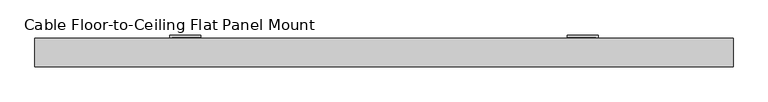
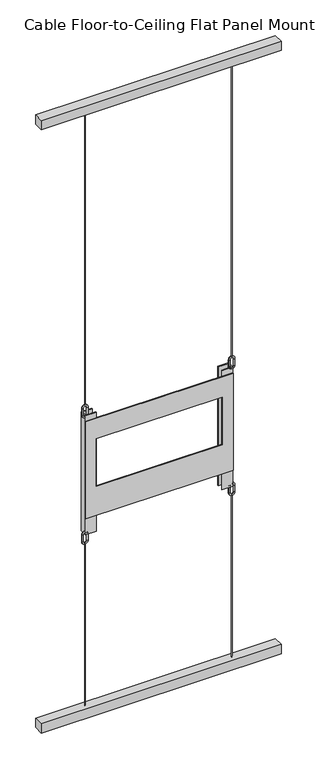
"""IFC4 building model written with IfcOpenShell, lengths in millimetres: proxy geometry, Flat_Panel_Mount-Chief-Cable_Floor_to_Ceiling : Cable Floor-to-Ceiling Flat Panel Mount."""

from ifc_helpers import new_model, si_unit, point, frame, frame_2d, origin, origin_with_axes, place, context, project, spatial, polyline, circle_curve, ellipse_curve, trimmed, segment, composite_curve, outline, extrude, source, transform, mapped, element, save
from ifc_brep_helpers import cylinder_surface, revolved_surface, advanced_brep


def cable_floor_to_ceiling_flat_panel_mount_ade06837(model_context):
    return source(origin(), model_context, "Body", "SolidModel", [
        advanced_brep(
        [(-324.485, 8.255, 779.2513154), (-297.815, 8.255, 779.2513154), (-304.165, 8.255, 779.2513154), (-318.135, 8.255, 779.2513154), (-318.135, 8.255, 809.7313154), (-324.485, 8.255, 809.7313154), (-297.815, 8.255, 809.7313154), (-304.165, 8.255, 809.7313154)],
        [
            (0, 1, circle_curve(frame((-311.15, 8.255, 779.2513154), z_axis=(0.0, -1.0, 0.0), x_axis=(1.0, 0.0, 0.0)), 13.335)),
            (1, 2, circle_curve(frame((-300.99, 8.255, 779.2513154), z_axis=(0.0, 0.0, -1.0), x_axis=(1.0, 0.0, 0.0)), 3.175)),
            (2, 3, circle_curve(frame((-311.15, 8.255, 779.2513154), z_axis=(0.0, 1.0, 0.0), x_axis=(1.0, 0.0, 0.0)), 6.985)),
            (3, 0, circle_curve(frame((-321.31, 8.255, 779.2513154), z_axis=(0.0, 0.0, -1.0), x_axis=(-1.0, 0.0, 0.0)), 3.175)),
            (2, 1, circle_curve(frame((-300.99, 8.255, 779.2513154), z_axis=(0.0, 0.0, -1.0), x_axis=(1.0, 0.0, 0.0)), 3.175)),
            (0, 3, circle_curve(frame((-321.31, 8.255, 779.2513154), z_axis=(0.0, 0.0, -1.0), x_axis=(-1.0, 0.0, 0.0)), 3.175)),
            (3, 4),
            (4, 5, circle_curve(frame((-321.31, 8.255, 809.7313154), z_axis=(0.0, 0.0, -1.0), x_axis=(-1.0, 0.0, 0.0)), 3.175)),
            (5, 0),
            (5, 4, circle_curve(frame((-321.31, 8.255, 809.7313154), z_axis=(0.0, 0.0, -1.0), x_axis=(-1.0, 0.0, 0.0)), 3.175)),
            (6, 5, circle_curve(frame((-311.15, 8.255, 809.7313154), z_axis=(0.0, -1.0, 0.0), x_axis=(-1.0, 0.0, 0.0)), 13.335)),
            (4, 7, circle_curve(frame((-311.15, 8.255, 809.7313154), z_axis=(0.0, 1.0, 0.0), x_axis=(-1.0, 0.0, 0.0)), 6.985)),
            (7, 6, circle_curve(frame((-300.99, 8.255, 809.7313154), z_axis=(0.0, 0.0, 1.0), x_axis=(1.0, 0.0, 0.0)), 3.175)),
            (6, 7, circle_curve(frame((-300.99, 8.255, 809.7313154), z_axis=(0.0, 0.0, 1.0), x_axis=(1.0, 0.0, 0.0)), 3.175)),
            (7, 2),
            (1, 6),
        ],
        [
            revolved_surface(trimmed(ellipse_curve(frame((-300.99, 8.255, 779.2513154), z_axis=(0.0, 0.0, 1.0), x_axis=(1.0, 0.0, 0.0)), 3.175, 3.175), [point((-304.165, 8.255, 779.2513154))], [point((-297.815, 8.255, 779.2513154))], True, "CARTESIAN"), (-311.15, 8.255, 779.2513154), (0.0, 1.0, 0.0)),
            revolved_surface(trimmed(ellipse_curve(frame((-300.99, 8.255, 779.2513154), z_axis=(0.0, 0.0, 1.0), x_axis=(1.0, 0.0, 0.0)), 3.175, 3.175), [point((-297.815, 8.255, 779.2513154))], [point((-304.165, 8.255, 779.2513154))], True, "CARTESIAN"), (-311.15, 8.255, 779.2513154), (0.0, 1.0, 0.0)),
            cylinder_surface(frame((-321.31, 8.255, 779.2513154), z_axis=(0.0, 0.0, -1.0), x_axis=(-1.0, 0.0, 0.0)), 3.175),
            revolved_surface(trimmed(ellipse_curve(frame((-321.31, 8.255, 809.7313154), z_axis=(0.0, 0.0, -1.0), x_axis=(-1.0, 0.0, 0.0)), 3.175, 3.175), [point((-318.135, 8.255, 809.7313154))], [point((-324.485, 8.255, 809.7313154))], True, "CARTESIAN"), (-311.15, 8.255, 809.7313154), (0.0, 1.0, 0.0)),
            revolved_surface(trimmed(ellipse_curve(frame((-321.31, 8.255, 809.7313154), z_axis=(0.0, 0.0, -1.0), x_axis=(-1.0, 0.0, 0.0)), 3.175, 3.175), [point((-324.485, 8.255, 809.7313154))], [point((-318.135, 8.255, 809.7313154))], True, "CARTESIAN"), (-311.15, 8.255, 809.7313154), (0.0, 1.0, 0.0)),
            cylinder_surface(frame((-300.99, 8.255, 809.7313154), z_axis=(0.0, 0.0, 1.0), x_axis=(1.0, 0.0, 0.0)), 3.175),
        ],
        [
            (0, [[1, 2, 3, 4]]),
            (1, [[-3, 5, -1, 6]]),
            (2, [[-4, 7, 8, 9]]),
            (2, [[-6, -9, 10, -7]]),
            (3, [[11, -8, 12, 13]]),
            (4, [[-12, -10, -11, 14]]),
            (5, [[-13, 15, -2, 16]]),
            (5, [[-14, -16, -5, -15]]),
        ],
    ),
        extrude(outline(composite_curve([segment(trimmed(circle_curve(frame_2d((-311.15, 8.255)), 1.016), [point((-312.166, 8.255))], [point((-310.134, 8.255))], False, "CARTESIAN"), True, "CONTINUOUS"), segment(trimmed(circle_curve(frame_2d((-311.15, 8.255)), 1.016), [point((-310.134, 8.255))], [point((-312.166, 8.255))], False, "CARTESIAN"), True, "CONTINUOUS")], self_intersect=False)), frame((0.0, 0.0, 41.402), z_axis=(0.0, 0.0, 1.0), x_axis=(1.0, 0.0, 0.0)), (0.0, 0.0, 1.0), 727.6893154),
        advanced_brep(
        [(-297.815, 8.255, 1376.1513154), (-324.485, 8.255, 1376.1513154), (-318.135, 8.255, 1376.1513154), (-304.165, 8.255, 1376.1513154), (-304.165, 8.255, 1345.6713154), (-297.815, 8.255, 1345.6713154), (-324.485, 8.255, 1345.6713154), (-318.135, 8.255, 1345.6713154)],
        [
            (0, 1, circle_curve(frame((-311.15, 8.255, 1376.1513154), z_axis=(0.0, -1.0, 0.0), x_axis=(-1.0, 0.0, 0.0)), 13.335)),
            (1, 2, circle_curve(frame((-321.31, 8.255, 1376.1513154), z_axis=(0.0, 0.0, 1.0), x_axis=(-1.0, 0.0, 0.0)), 3.175)),
            (2, 3, circle_curve(frame((-311.15, 8.255, 1376.1513154), z_axis=(0.0, 1.0, 0.0), x_axis=(-1.0, 0.0, 0.0)), 6.985)),
            (3, 0, circle_curve(frame((-300.99, 8.255, 1376.1513154), z_axis=(0.0, 0.0, 1.0), x_axis=(1.0, 0.0, 0.0)), 3.175)),
            (2, 1, circle_curve(frame((-321.31, 8.255, 1376.1513154), z_axis=(0.0, 0.0, 1.0), x_axis=(-1.0, 0.0, 0.0)), 3.175)),
            (0, 3, circle_curve(frame((-300.99, 8.255, 1376.1513154), z_axis=(0.0, 0.0, 1.0), x_axis=(1.0, 0.0, 0.0)), 3.175)),
            (3, 4),
            (4, 5, circle_curve(frame((-300.99, 8.255, 1345.6713154), z_axis=(0.0, 0.0, 1.0), x_axis=(1.0, 0.0, 0.0)), 3.175)),
            (5, 0),
            (5, 4, circle_curve(frame((-300.99, 8.255, 1345.6713154), z_axis=(0.0, 0.0, 1.0), x_axis=(1.0, 0.0, 0.0)), 3.175)),
            (6, 5, circle_curve(frame((-311.15, 8.255, 1345.6713154), z_axis=(0.0, -1.0, 0.0), x_axis=(1.0, 0.0, 0.0)), 13.335)),
            (4, 7, circle_curve(frame((-311.15, 8.255, 1345.6713154), z_axis=(0.0, 1.0, 0.0), x_axis=(1.0, 0.0, 0.0)), 6.985)),
            (7, 6, circle_curve(frame((-321.31, 8.255, 1345.6713154), z_axis=(0.0, 0.0, -1.0), x_axis=(-1.0, 0.0, 0.0)), 3.175)),
            (6, 7, circle_curve(frame((-321.31, 8.255, 1345.6713154), z_axis=(0.0, 0.0, -1.0), x_axis=(-1.0, 0.0, 0.0)), 3.175)),
            (7, 2),
            (1, 6),
        ],
        [
            revolved_surface(trimmed(ellipse_curve(frame((-321.31, 8.255, 1376.1513154), z_axis=(0.0, 0.0, -1.0), x_axis=(-1.0, 0.0, 0.0)), 3.175, 3.175), [point((-318.135, 8.255, 1376.1513154))], [point((-324.485, 8.255, 1376.1513154))], True, "CARTESIAN"), (-311.15, 8.255, 1376.1513154), (0.0, 1.0, 0.0)),
            revolved_surface(trimmed(ellipse_curve(frame((-321.31, 8.255, 1376.1513154), z_axis=(0.0, 0.0, -1.0), x_axis=(-1.0, 0.0, 0.0)), 3.175, 3.175), [point((-324.485, 8.255, 1376.1513154))], [point((-318.135, 8.255, 1376.1513154))], True, "CARTESIAN"), (-311.15, 8.255, 1376.1513154), (0.0, 1.0, 0.0)),
            cylinder_surface(frame((-300.99, 8.255, 1376.1513154), z_axis=(0.0, 0.0, 1.0), x_axis=(1.0, 0.0, 0.0)), 3.175),
            revolved_surface(trimmed(ellipse_curve(frame((-300.99, 8.255, 1345.6713154), z_axis=(0.0, 0.0, 1.0), x_axis=(1.0, 0.0, 0.0)), 3.175, 3.175), [point((-304.165, 8.255, 1345.6713154))], [point((-297.815, 8.255, 1345.6713154))], True, "CARTESIAN"), (-311.15, 8.255, 1345.6713154), (0.0, 1.0, 0.0)),
            revolved_surface(trimmed(ellipse_curve(frame((-300.99, 8.255, 1345.6713154), z_axis=(0.0, 0.0, 1.0), x_axis=(1.0, 0.0, 0.0)), 3.175, 3.175), [point((-297.815, 8.255, 1345.6713154))], [point((-304.165, 8.255, 1345.6713154))], True, "CARTESIAN"), (-311.15, 8.255, 1345.6713154), (0.0, 1.0, 0.0)),
            cylinder_surface(frame((-321.31, 8.255, 1345.6713154), z_axis=(0.0, 0.0, -1.0), x_axis=(-1.0, 0.0, 0.0)), 3.175),
        ],
        [
            (0, [[1, 2, 3, 4]]),
            (1, [[-3, 5, -1, 6]]),
            (2, [[-4, 7, 8, 9]]),
            (2, [[-6, -9, 10, -7]]),
            (3, [[11, -8, 12, 13]]),
            (4, [[-12, -10, -11, 14]]),
            (5, [[-13, 15, -2, 16]]),
            (5, [[-14, -16, -5, -15]]),
        ],
    ),
        extrude(outline(composite_curve([segment(trimmed(circle_curve(frame_2d((-311.15, 8.255)), 1.016), [point((-310.134, 8.255))], [point((-312.166, 8.255))], False, "CARTESIAN"), True, "CONTINUOUS"), segment(trimmed(circle_curve(frame_2d((-311.15, 8.255)), 1.016), [point((-312.166, 8.255))], [point((-310.134, 8.255))], False, "CARTESIAN"), True, "CONTINUOUS")], self_intersect=False)), frame((0.0, 0.0, 1386.3113154), z_axis=(0.0, 0.0, 1.0), x_axis=(1.0, 0.0, 0.0)), (0.0, 0.0, 1.0), 1315.4866846),
        advanced_brep(
        [(297.815, 8.255, 779.2513154), (324.485, 8.255, 779.2513154), (318.135, 8.255, 779.2513154), (304.165, 8.255, 779.2513154), (304.165, 8.255, 809.7313154), (297.815, 8.255, 809.7313154), (324.485, 8.255, 809.7313154), (318.135, 8.255, 809.7313154)],
        [
            (0, 1, circle_curve(frame((311.15, 8.255, 779.2513154), z_axis=(0.0, -1.0, 0.0), x_axis=(1.0, 0.0, 0.0)), 13.335)),
            (1, 2, circle_curve(frame((321.31, 8.255, 779.2513154), z_axis=(0.0, 0.0, -1.0), x_axis=(1.0, 0.0, 0.0)), 3.175)),
            (2, 3, circle_curve(frame((311.15, 8.255, 779.2513154), z_axis=(0.0, 1.0, 0.0), x_axis=(1.0, 0.0, 0.0)), 6.985)),
            (3, 0, circle_curve(frame((300.99, 8.255, 779.2513154), z_axis=(0.0, 0.0, -1.0), x_axis=(-1.0, 0.0, 0.0)), 3.175)),
            (2, 1, circle_curve(frame((321.31, 8.255, 779.2513154), z_axis=(0.0, 0.0, -1.0), x_axis=(1.0, 0.0, 0.0)), 3.175)),
            (0, 3, circle_curve(frame((300.99, 8.255, 779.2513154), z_axis=(0.0, 0.0, -1.0), x_axis=(-1.0, 0.0, 0.0)), 3.175)),
            (3, 4),
            (4, 5, circle_curve(frame((300.99, 8.255, 809.7313154), z_axis=(0.0, 0.0, -1.0), x_axis=(-1.0, 0.0, 0.0)), 3.175)),
            (5, 0),
            (5, 4, circle_curve(frame((300.99, 8.255, 809.7313154), z_axis=(0.0, 0.0, -1.0), x_axis=(-1.0, 0.0, 0.0)), 3.175)),
            (6, 5, circle_curve(frame((311.15, 8.255, 809.7313154), z_axis=(0.0, -1.0, 0.0), x_axis=(-1.0, 0.0, 0.0)), 13.335)),
            (4, 7, circle_curve(frame((311.15, 8.255, 809.7313154), z_axis=(0.0, 1.0, 0.0), x_axis=(-1.0, 0.0, 0.0)), 6.985)),
            (7, 6, circle_curve(frame((321.31, 8.255, 809.7313154), z_axis=(0.0, 0.0, 1.0), x_axis=(1.0, 0.0, 0.0)), 3.175)),
            (6, 7, circle_curve(frame((321.31, 8.255, 809.7313154), z_axis=(0.0, 0.0, 1.0), x_axis=(1.0, 0.0, 0.0)), 3.175)),
            (7, 2),
            (1, 6),
        ],
        [
            revolved_surface(trimmed(ellipse_curve(frame((321.31, 8.255, 779.2513154), z_axis=(0.0, 0.0, 1.0), x_axis=(1.0, 0.0, 0.0)), 3.175, 3.175), [point((318.135, 8.255, 779.2513154))], [point((324.485, 8.255, 779.2513154))], True, "CARTESIAN"), (311.15, 8.255, 779.2513154), (0.0, 1.0, 0.0)),
            revolved_surface(trimmed(ellipse_curve(frame((321.31, 8.255, 779.2513154), z_axis=(0.0, 0.0, 1.0), x_axis=(1.0, 0.0, 0.0)), 3.175, 3.175), [point((324.485, 8.255, 779.2513154))], [point((318.135, 8.255, 779.2513154))], True, "CARTESIAN"), (311.15, 8.255, 779.2513154), (0.0, 1.0, 0.0)),
            cylinder_surface(frame((300.99, 8.255, 779.2513154), z_axis=(0.0, 0.0, -1.0), x_axis=(-1.0, 0.0, 0.0)), 3.175),
            revolved_surface(trimmed(ellipse_curve(frame((300.99, 8.255, 809.7313154), z_axis=(0.0, 0.0, -1.0), x_axis=(-1.0, 0.0, 0.0)), 3.175, 3.175), [point((304.165, 8.255, 809.7313154))], [point((297.815, 8.255, 809.7313154))], True, "CARTESIAN"), (311.15, 8.255, 809.7313154), (0.0, 1.0, 0.0)),
            revolved_surface(trimmed(ellipse_curve(frame((300.99, 8.255, 809.7313154), z_axis=(0.0, 0.0, -1.0), x_axis=(-1.0, 0.0, 0.0)), 3.175, 3.175), [point((297.815, 8.255, 809.7313154))], [point((304.165, 8.255, 809.7313154))], True, "CARTESIAN"), (311.15, 8.255, 809.7313154), (0.0, 1.0, 0.0)),
            cylinder_surface(frame((321.31, 8.255, 809.7313154), z_axis=(0.0, 0.0, 1.0), x_axis=(1.0, 0.0, 0.0)), 3.175),
        ],
        [
            (0, [[1, 2, 3, 4]]),
            (1, [[-3, 5, -1, 6]]),
            (2, [[-4, 7, 8, 9]]),
            (2, [[-6, -9, 10, -7]]),
            (3, [[11, -8, 12, 13]]),
            (4, [[-12, -10, -11, 14]]),
            (5, [[-13, 15, -2, 16]]),
            (5, [[-14, -16, -5, -15]]),
        ],
    ),
        extrude(outline(composite_curve([segment(trimmed(circle_curve(frame_2d((311.15, 8.255)), 1.016), [point((310.134, 8.255))], [point((312.166, 8.255))], False, "CARTESIAN"), True, "CONTINUOUS"), segment(trimmed(circle_curve(frame_2d((311.15, 8.255)), 1.016), [point((312.166, 8.255))], [point((310.134, 8.255))], False, "CARTESIAN"), True, "CONTINUOUS")], self_intersect=False)), frame((0.0, 0.0, 41.402), z_axis=(0.0, 0.0, 1.0), x_axis=(1.0, 0.0, 0.0)), (0.0, 0.0, 1.0), 727.6893154),
        advanced_brep(
        [(324.485, 8.255, 1376.1513154), (297.815, 8.255, 1376.1513154), (304.165, 8.255, 1376.1513154), (318.135, 8.255, 1376.1513154), (318.135, 8.255, 1345.6713154), (324.485, 8.255, 1345.6713154), (297.815, 8.255, 1345.6713154), (304.165, 8.255, 1345.6713154)],
        [
            (0, 1, circle_curve(frame((311.15, 8.255, 1376.1513154), z_axis=(0.0, -1.0, 0.0), x_axis=(-1.0, 0.0, 0.0)), 13.335)),
            (1, 2, circle_curve(frame((300.99, 8.255, 1376.1513154), z_axis=(0.0, 0.0, 1.0), x_axis=(-1.0, 0.0, 0.0)), 3.175)),
            (2, 3, circle_curve(frame((311.15, 8.255, 1376.1513154), z_axis=(0.0, 1.0, 0.0), x_axis=(-1.0, 0.0, 0.0)), 6.985)),
            (3, 0, circle_curve(frame((321.31, 8.255, 1376.1513154), z_axis=(0.0, 0.0, 1.0), x_axis=(1.0, 0.0, 0.0)), 3.175)),
            (2, 1, circle_curve(frame((300.99, 8.255, 1376.1513154), z_axis=(0.0, 0.0, 1.0), x_axis=(-1.0, 0.0, 0.0)), 3.175)),
            (0, 3, circle_curve(frame((321.31, 8.255, 1376.1513154), z_axis=(0.0, 0.0, 1.0), x_axis=(1.0, 0.0, 0.0)), 3.175)),
            (3, 4),
            (4, 5, circle_curve(frame((321.31, 8.255, 1345.6713154), z_axis=(0.0, 0.0, 1.0), x_axis=(1.0, 0.0, 0.0)), 3.175)),
            (5, 0),
            (5, 4, circle_curve(frame((321.31, 8.255, 1345.6713154), z_axis=(0.0, 0.0, 1.0), x_axis=(1.0, 0.0, 0.0)), 3.175)),
            (6, 5, circle_curve(frame((311.15, 8.255, 1345.6713154), z_axis=(0.0, -1.0, 0.0), x_axis=(1.0, 0.0, 0.0)), 13.335)),
            (4, 7, circle_curve(frame((311.15, 8.255, 1345.6713154), z_axis=(0.0, 1.0, 0.0), x_axis=(1.0, 0.0, 0.0)), 6.985)),
            (7, 6, circle_curve(frame((300.99, 8.255, 1345.6713154), z_axis=(0.0, 0.0, -1.0), x_axis=(-1.0, 0.0, 0.0)), 3.175)),
            (6, 7, circle_curve(frame((300.99, 8.255, 1345.6713154), z_axis=(0.0, 0.0, -1.0), x_axis=(-1.0, 0.0, 0.0)), 3.175)),
            (7, 2),
            (1, 6),
        ],
        [
            revolved_surface(trimmed(ellipse_curve(frame((300.99, 8.255, 1376.1513154), z_axis=(0.0, 0.0, -1.0), x_axis=(-1.0, 0.0, 0.0)), 3.175, 3.175), [point((304.165, 8.255, 1376.1513154))], [point((297.815, 8.255, 1376.1513154))], True, "CARTESIAN"), (311.15, 8.255, 1376.1513154), (0.0, 1.0, 0.0)),
            revolved_surface(trimmed(ellipse_curve(frame((300.99, 8.255, 1376.1513154), z_axis=(0.0, 0.0, -1.0), x_axis=(-1.0, 0.0, 0.0)), 3.175, 3.175), [point((297.815, 8.255, 1376.1513154))], [point((304.165, 8.255, 1376.1513154))], True, "CARTESIAN"), (311.15, 8.255, 1376.1513154), (0.0, 1.0, 0.0)),
            cylinder_surface(frame((321.31, 8.255, 1376.1513154), z_axis=(0.0, 0.0, 1.0), x_axis=(1.0, 0.0, 0.0)), 3.175),
            revolved_surface(trimmed(ellipse_curve(frame((321.31, 8.255, 1345.6713154), z_axis=(0.0, 0.0, 1.0), x_axis=(1.0, 0.0, 0.0)), 3.175, 3.175), [point((318.135, 8.255, 1345.6713154))], [point((324.485, 8.255, 1345.6713154))], True, "CARTESIAN"), (311.15, 8.255, 1345.6713154), (0.0, 1.0, 0.0)),
            revolved_surface(trimmed(ellipse_curve(frame((321.31, 8.255, 1345.6713154), z_axis=(0.0, 0.0, 1.0), x_axis=(1.0, 0.0, 0.0)), 3.175, 3.175), [point((324.485, 8.255, 1345.6713154))], [point((318.135, 8.255, 1345.6713154))], True, "CARTESIAN"), (311.15, 8.255, 1345.6713154), (0.0, 1.0, 0.0)),
            cylinder_surface(frame((300.99, 8.255, 1345.6713154), z_axis=(0.0, 0.0, -1.0), x_axis=(-1.0, 0.0, 0.0)), 3.175),
        ],
        [
            (0, [[1, 2, 3, 4]]),
            (1, [[-3, 5, -1, 6]]),
            (2, [[-4, 7, 8, 9]]),
            (2, [[-6, -9, 10, -7]]),
            (3, [[11, -8, 12, 13]]),
            (4, [[-12, -10, -11, 14]]),
            (5, [[-13, 15, -2, 16]]),
            (5, [[-14, -16, -5, -15]]),
        ],
    ),
        extrude(outline(composite_curve([segment(trimmed(circle_curve(frame_2d((311.15, 8.255)), 1.016), [point((312.166, 8.255))], [point((310.134, 8.255))], False, "CARTESIAN"), True, "CONTINUOUS"), segment(trimmed(circle_curve(frame_2d((311.15, 8.255)), 1.016), [point((310.134, 8.255))], [point((312.166, 8.255))], False, "CARTESIAN"), True, "CONTINUOUS")], self_intersect=False)), frame((0.0, 0.0, 1386.3113154), z_axis=(0.0, 0.0, 1.0), x_axis=(1.0, 0.0, 0.0)), (0.0, 0.0, 1.0), 1315.4866846),
        extrude(outline(polyline([(308.737, 6.096), (308.737, 30.48), (266.7, 30.48), (266.7, 33.528), (311.785, 33.528), (311.785, 3.048), (266.7, 3.048), (266.7, 6.096), (308.737, 6.096)])), frame((0.0, 0.0, 809.7313154), z_axis=(0.0, 0.0, 1.0), x_axis=(1.0, 0.0, 0.0)), (0.0, 0.0, 1.0), 533.4),
        extrude(outline(polyline([(-266.7, 6.096), (-266.7, 3.048), (-311.785, 3.048), (-311.785, 33.528), (-266.7, 33.528), (-266.7, 30.48), (-308.737, 30.48), (-308.737, 6.096), (-266.7, 6.096)])), frame((0.0, 0.0, 809.7313154), z_axis=(0.0, 0.0, 1.0), x_axis=(1.0, 0.0, 0.0)), (0.0, 0.0, 1.0), 533.4),
        extrude(outline(polyline([(1317.7313154, -311.785), (882.8833154, -311.785), (882.8833154, 311.785), (1317.7313154, 311.785), (1317.7313154, -311.785)]), holes=[polyline([(1012.9313154, 266.7), (1012.9313154, -266.7), (1225.5293154, -266.7), (1225.5293154, 266.7), (1012.9313154, 266.7)])]), frame((0.0, 0.0, 0.0), z_axis=(0.0, 1.0, 0.0), x_axis=(0.0, 0.0, 1.0)), (0.0, 0.0, 1.0), 3.048),
        extrude(outline(polyline([(508.0, -12.446), (-508.0, -12.446), (-508.0, 28.956), (508.0, 28.956), (508.0, -12.446)])), frame((0.0, 0.0, 2701.798), z_axis=(0.0, 0.0, 1.0), x_axis=(1.0, 0.0, 0.0)), (0.0, 0.0, 1.0), 41.402),
        extrude(outline(polyline([(508.0, -12.446), (-508.0, -12.446), (-508.0, 28.956), (508.0, 28.956), (508.0, -12.446)])), origin_with_axes(), (0.0, 0.0, 1.0), 41.402),
    ])


if __name__ == "__main__":
    model = new_model("IFC4")
    model_context = context("Model", 3, world=origin())
    ifc_project = project(units=[si_unit("LENGTHUNIT", "METRE", prefix="MILLI")], contexts=[model_context])
    site = spatial("IfcSite", under=ifc_project)
    building = spatial("IfcBuilding", under=site)
    placement = place(None, origin())
    cable_floor_to_ceiling_flat_panel_mount_shape = cable_floor_to_ceiling_flat_panel_mount_ade06837(model_context)
    element("IfcBuildingElementProxy", 1, Name="Flat_Panel_Mount-Chief-Cable_Floor_to_Ceiling : Cable Floor-to-Ceiling Flat Panel Mount", ObjectType="Flat_Panel_Mount-Chief-Cable_Floor_to_Ceiling : Cable Floor-to-Ceiling Flat Panel Mount", at=placement, inside=building, context=model_context, shape_type="MappedRepresentation", body=[
        mapped(cable_floor_to_ceiling_flat_panel_mount_shape, transform((0.0, 0.0, 0.0), x_axis=(1.0, 0.0, 0.0), y_axis=(0.0, 1.0, 0.0), z_axis=(0.0, 0.0, 1.0))),
    ])
    save(model, "model.ifc")
